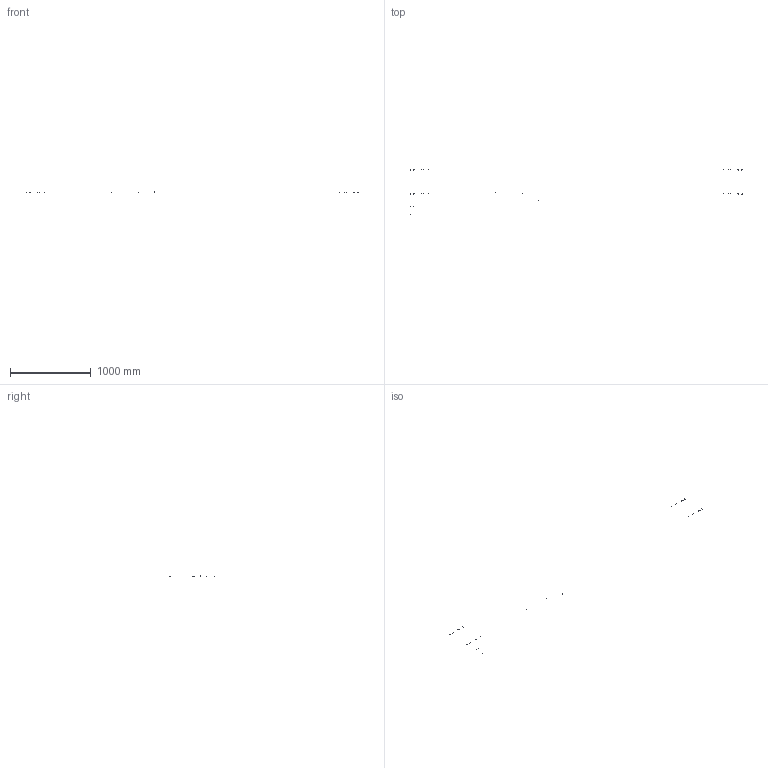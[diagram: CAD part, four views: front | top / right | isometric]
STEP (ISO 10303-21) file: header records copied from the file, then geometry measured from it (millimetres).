
FILE_DESCRIPTION(/* description */ (''),/* implementation_level */ '2;1');
FILE_NAME(/* name */ '1172',/* time_stamp */ '2021-03-01T11:20:30+01:00',/* author */ (''),/* organization */ (''),/* preprocessor_version */ 'ST-DEVELOPER v16.5',/* originating_system */ '',/* authorisation */ '');
FILE_SCHEMA (('CONFIG_CONTROL_DESIGN'));
Length unit declared in the file: millimetre
Products named in the file (1): Document
Bounding box: 4100 x 565.59 x 16.28 mm (x, y, z)
Volume: 941283.5 mm3; surface area: 324759.5 mm2
Topology: 11 solids, 11 shells, 71 faces, 137 edges, 72 vertices
Faces by surface type: bspline 61, plane 8, cylinder 2
Full cylindrical faces by diameter (mm): 1.5 x2
Entity records: 8070 total; most frequent: CARTESIAN_POINT 7203, ORIENTED_EDGE 250, EDGE_CURVE 125, VERTEX_POINT 72, ADVANCED_FACE 71, FACE_OUTER_BOUND 71, EDGE_LOOP 71, B_SPLINE_CURVE_WITH_KNOTS 53
